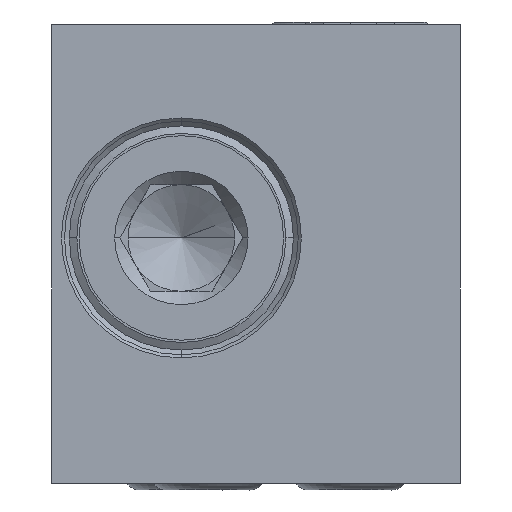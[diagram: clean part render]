
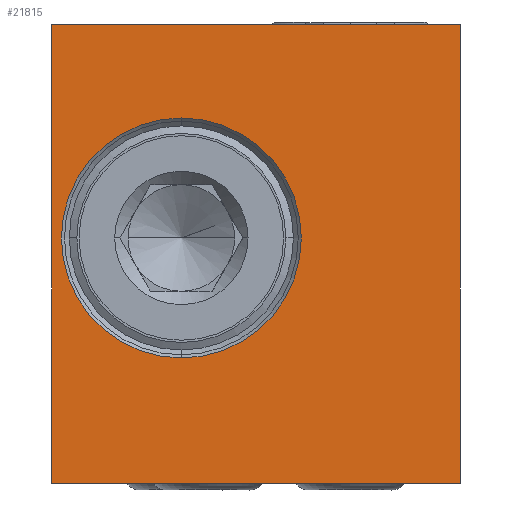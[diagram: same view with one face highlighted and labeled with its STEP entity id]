
A CAD part, left-side view. The second image highlights one B-rep face of the part: STEP entity #21815.
In plain terms, the highlighted planar face has unit normal (-1, 0, 0).
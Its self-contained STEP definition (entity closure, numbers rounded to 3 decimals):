
#4013=DIRECTION('',(0.,0.,1.));
#4014=VECTOR('',#4013,25.8);
#4015=CARTESIAN_POINT('',(-38.,11.5,-12.9));
#4016=LINE('',#4015,#4014);
#4017=DIRECTION('',(0.,-1.,0.));
#4018=VECTOR('',#4017,23.);
#4019=CARTESIAN_POINT('',(-38.,11.5,12.9));
#4020=LINE('',#4019,#4018);
#4021=DIRECTION('',(0.,0.,-1.));
#4022=VECTOR('',#4021,25.8);
#4023=CARTESIAN_POINT('',(-38.,-11.5,12.9));
#4024=LINE('',#4023,#4022);
#4025=DIRECTION('',(0.,1.,0.));
#4026=VECTOR('',#4025,23.);
#4027=CARTESIAN_POINT('',(-38.,-11.5,-12.9));
#4028=LINE('',#4027,#4026);
#4029=CARTESIAN_POINT('',(-38.,4.2,0.9));
#4030=DIRECTION('',(-1.,0.,0.));
#4031=DIRECTION('',(0.,0.,-1.));
#4032=AXIS2_PLACEMENT_3D('',#4029,#4030,#4031);
#4034=CARTESIAN_POINT('',(-38.,4.2,0.9));
#4035=DIRECTION('',(-1.,0.,0.));
#4036=DIRECTION('',(0.,0.,1.));
#4037=AXIS2_PLACEMENT_3D('',#4034,#4035,#4036);
#14947=CARTESIAN_POINT('',(-38.,11.5,12.9));
#14948=VERTEX_POINT('',#14947);
#14949=CARTESIAN_POINT('',(-38.,11.5,-12.9));
#14950=VERTEX_POINT('',#14949);
#14951=CARTESIAN_POINT('',(-38.,-11.5,12.9));
#14952=VERTEX_POINT('',#14951);
#14973=CARTESIAN_POINT('',(-38.,-11.5,-12.9));
#14974=VERTEX_POINT('',#14973);
#15019=CARTESIAN_POINT('',(-38.,4.2,-5.85));
#15020=CARTESIAN_POINT('',(-38.,4.2,7.65));
#15021=VERTEX_POINT('',#15019);
#15022=VERTEX_POINT('',#15020);
#21796=CARTESIAN_POINT('',(-38.,0.,0.));
#21797=DIRECTION('',(-1.,0.,0.));
#21798=DIRECTION('',(0.,-1.,0.));
#21799=AXIS2_PLACEMENT_3D('',#21796,#21797,#21798);
#21800=PLANE('',#21799);
#21801=ORIENTED_EDGE('',*,*,#21789,.T.);
#21802=ORIENTED_EDGE('',*,*,#19587,.T.);
#21804=ORIENTED_EDGE('',*,*,#21803,.T.);
#21806=ORIENTED_EDGE('',*,*,#21805,.T.);
#21807=EDGE_LOOP('',(#21801,#21802,#21804,#21806));
#21808=FACE_OUTER_BOUND('',#21807,.F.);
#21810=ORIENTED_EDGE('',*,*,#21809,.T.);
#21812=ORIENTED_EDGE('',*,*,#21811,.T.);
#21813=EDGE_LOOP('',(#21810,#21812));
#21814=FACE_BOUND('',#21813,.F.);
#21815=ADVANCED_FACE('',(#21808,#21814),#21800,.T.);
#4033=CIRCLE('',#4032,6.75);
#4038=CIRCLE('',#4037,6.75);
#19587=EDGE_CURVE('',#14948,#14952,#4020,.T.);
#21789=EDGE_CURVE('',#14950,#14948,#4016,.T.);
#21803=EDGE_CURVE('',#14952,#14974,#4024,.T.);
#21805=EDGE_CURVE('',#14974,#14950,#4028,.T.);
#21809=EDGE_CURVE('',#15021,#15022,#4033,.T.);
#21811=EDGE_CURVE('',#15022,#15021,#4038,.T.);
